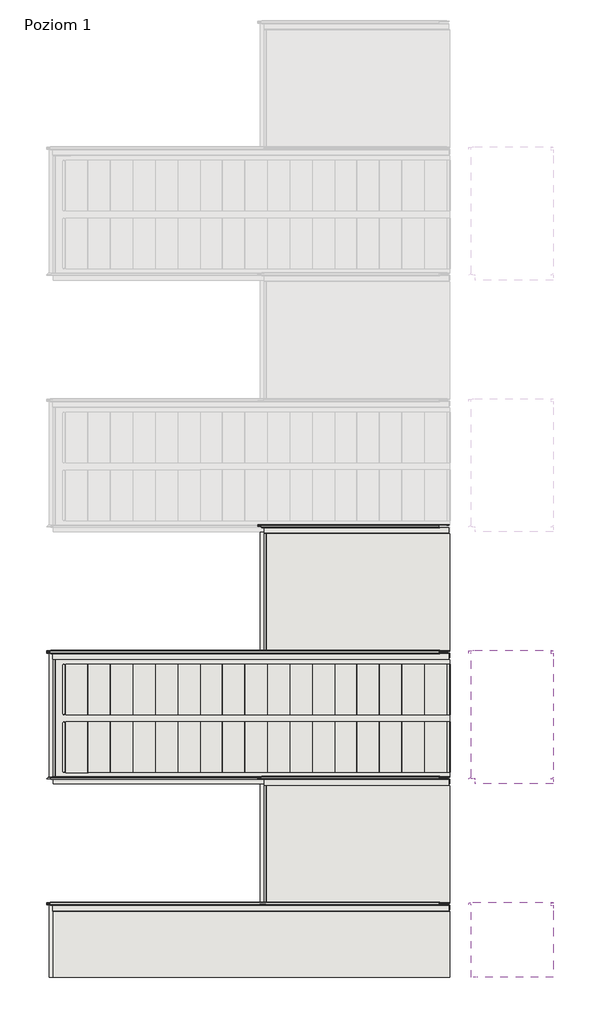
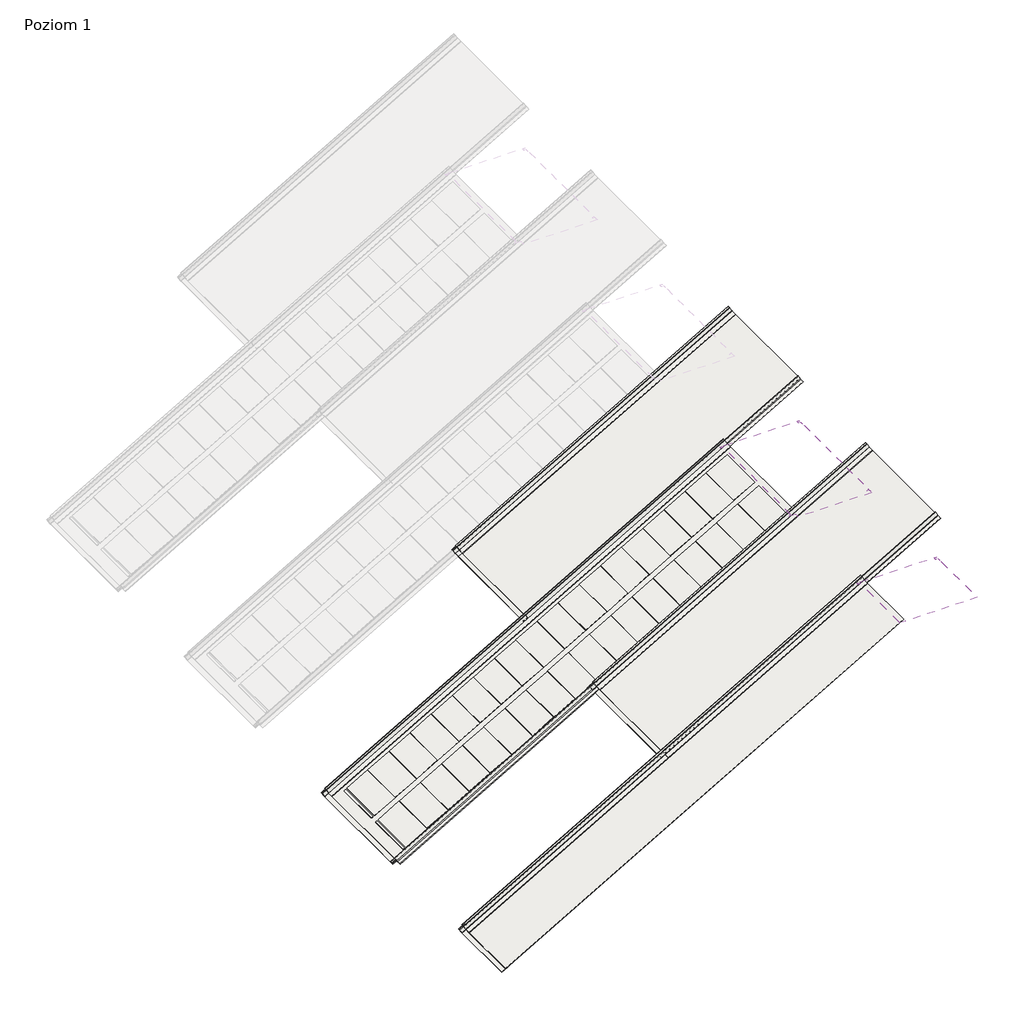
# One storey, part 1 of 5: 6 coverings.
"""IFC4 building model written with IfcOpenShell, lengths in millimetres."""

from ifc_helpers import new_model, si_unit, point, frame, frame_2d, origin, place, context, project, spatial, polyline, circle_curve, trimmed, segment, composite_curve, outline, extrude, transform, mapped, element, save
from components import covering_053faf2b

model = new_model("IFC4")

# Units and contexts
model_context = context("Model", 3, world=origin())
ifc_project = project(units=[si_unit("LENGTHUNIT", "METRE", prefix="MILLI")], contexts=[model_context])

# Site, building, storey
site = spatial("IfcSite", under=ifc_project)
building = spatial("IfcBuilding", under=site)
storey = spatial("IfcBuildingStorey", under=building, Name="Poziom 1", Elevation=3000.0)

# Coverings
placement = place(None, origin())
element("IfcCovering", 1, ObjectType="Zintegrowany dach fotowoltaiczny FIT L.P (pojedynczy arkusz) : Zintegrowany dach fotowoltaiczny FIT L.P (pojedynczy arkusz)", at=placement, inside=storey, context=model_context, shape_type="SweptSolid", body=[
    extrude(outline(composite_curve([segment(polyline([(-502.4735079, 0.0), (-504.4735079, -2.0), (-527.0645253, -2.0)]), True, "CONTINUOUS"), segment(trimmed(circle_curve(frame_2d((-527.0645253, -2.82435)), 0.82435), [point((-527.0645253, -2.0))], [point((-527.8888753, -2.82435))], True, "CARTESIAN"), True, "CONTINUOUS"), segment(polyline([(-527.8888753, -2.82435), (-527.8888753, -21.4999999)]), True, "CONTINUOUS"), segment(trimmed(circle_curve(frame_2d((-529.8888753, -21.4999999)), 2.0), [point((-527.8888753, -21.4999999))], [point((-529.8888753, -23.5))], False, "CARTESIAN"), True, "CONTINUOUS"), segment(polyline([(-529.8888753, -23.5), (-538.7124649, -23.5)]), True, "CONTINUOUS"), segment(trimmed(circle_curve(frame_2d((-538.7124649, -21.4999999)), 2.0), [point((-538.7124649, -23.5))], [point((-540.7124649, -21.4999999))], False, "CARTESIAN"), True, "CONTINUOUS"), segment(polyline([(-540.7124649, -21.4999999), (-540.7124649, -7.4245569)]), True, "CONTINUOUS"), segment(trimmed(circle_curve(frame_2d((-536.9124649, -7.4245569)), 3.8), [point((-540.7124649, -7.4245569))], [point((-538.602078, -4.0208519))], False, "CARTESIAN"), True, "CONTINUOUS"), segment(trimmed(circle_curve(frame_2d((-539.1177488, -2.9820395)), 1.1597619), [point((-538.602078, -4.0208519))], [point((-537.9725591, -2.7987691))], True, "CARTESIAN"), True, "CONTINUOUS"), segment(polyline([(-537.9725591, -2.7987691), (-538.8089749, -1.2740237), (-537.9322268, -0.7930739), (-537.1002451, -2.309736)]), True, "CONTINUOUS"), segment(trimmed(circle_curve(frame_2d((-538.6177488, -2.9820395)), 1.6597619), [point((-537.1002451, -2.309736))], [point((-537.8797605, -4.4687079))], False, "CARTESIAN"), True, "CONTINUOUS"), segment(trimmed(circle_curve(frame_2d((-536.4124649, -7.4245569)), 3.3), [point((-537.8797605, -4.4687079))], [point((-539.7124649, -7.4245569))], True, "CARTESIAN"), True, "CONTINUOUS"), segment(polyline([(-539.7124649, -7.4245569), (-539.7124649, -20.9999999)]), True, "CONTINUOUS"), segment(trimmed(circle_curve(frame_2d((-538.2124649, -20.9999999)), 1.5), [point((-539.7124649, -20.9999999))], [point((-538.2124649, -22.4999999))], True, "CARTESIAN"), True, "CONTINUOUS"), segment(polyline([(-538.2124649, -22.4999999), (-530.3888753, -22.4999999)]), True, "CONTINUOUS"), segment(trimmed(circle_curve(frame_2d((-530.3888753, -20.9999999)), 1.5), [point((-530.3888753, -22.4999999))], [point((-528.8888753, -20.9999999))], True, "CARTESIAN"), True, "CONTINUOUS"), segment(polyline([(-528.8888753, -20.9999999), (-528.8888753, -2.7363796)]), True, "CONTINUOUS"), segment(trimmed(circle_curve(frame_2d((-527.09, -2.8)), 1.8), [point((-528.8888753, -2.7363796))], [point((-527.09, -1.0))], False, "CARTESIAN"), True, "CONTINUOUS"), segment(polyline([(-527.09, -1.0), (-504.8877215, -1.0), (-502.8877215, 1.0), (-226.5006701, 1.0), (-226.5006701, 0.0), (-502.4735079, 0.0)]), True, "CONTINUOUS")], self_intersect=False)), frame((-1169.0411448, -8928.5102619, 3241.5544457), z_axis=(0.8660254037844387, 0.0, 0.5), x_axis=(0.0, -1.0, 0.0)), (0.0, 0.0, 1.0), 2040.0),
    extrude(outline(composite_curve([segment(trimmed(circle_curve(frame_2d((49.17565, -11.6479396)), 0.82435), [point((49.9999999, -11.6479396))], [point((49.17565, -10.8235896))], True, "CARTESIAN"), True, "CONTINUOUS"), segment(polyline([(49.17565, -10.8235896), (30.0, -10.8235896)]), True, "CONTINUOUS"), segment(trimmed(circle_curve(frame_2d((30.0, -8.8235896)), 2.0), [point((30.0, -10.8235896))], [point((28.0, -8.8235896))], False, "CARTESIAN"), True, "CONTINUOUS"), segment(polyline([(28.0, -8.8235896), (28.0, -4.0)]), True, "CONTINUOUS"), segment(trimmed(circle_curve(frame_2d((30.0, -4.0)), 2.0), [point((28.0, -4.0))], [point((30.0, -2.0))], False, "CARTESIAN"), True, "CONTINUOUS"), segment(polyline([(30.0, -2.0), (42.075443, -2.0)]), True, "CONTINUOUS"), segment(trimmed(circle_curve(frame_2d((42.075443, -5.8)), 3.8), [point((42.075443, -2.0))], [point((45.479148, -4.1103869))], False, "CARTESIAN"), True, "CONTINUOUS"), segment(trimmed(circle_curve(frame_2d((46.5179605, -3.5947161)), 1.1597619), [point((45.479148, -4.1103869))], [point((46.7012309, -4.7399058))], True, "CARTESIAN"), True, "CONTINUOUS"), segment(polyline([(46.7012309, -4.7399058), (48.2259762, -3.90349), (48.7069261, -4.7802381), (47.190264, -5.6122198)]), True, "CONTINUOUS"), segment(trimmed(circle_curve(frame_2d((46.5179605, -4.0947161)), 1.6597619), [point((47.190264, -5.6122198))], [point((45.0312921, -4.8327044))], False, "CARTESIAN"), True, "CONTINUOUS"), segment(trimmed(circle_curve(frame_2d((42.075443, -6.3)), 3.3), [point((45.0312921, -4.8327044))], [point((42.075443, -3.0))], True, "CARTESIAN"), True, "CONTINUOUS"), segment(polyline([(42.075443, -3.0), (30.5, -3.0)]), True, "CONTINUOUS"), segment(trimmed(circle_curve(frame_2d((30.5, -4.5)), 1.5), [point((30.5, -3.0))], [point((29.0, -4.5))], True, "CARTESIAN"), True, "CONTINUOUS"), segment(polyline([(29.0, -4.5), (29.0, -8.3235896)]), True, "CONTINUOUS"), segment(trimmed(circle_curve(frame_2d((30.5, -8.3235896)), 1.5), [point((29.0, -8.3235896))], [point((30.5, -9.8235896))], True, "CARTESIAN"), True, "CONTINUOUS"), segment(polyline([(30.5, -9.8235896), (49.2636204, -9.8235896)]), True, "CONTINUOUS"), segment(trimmed(circle_curve(frame_2d((49.1999999, -11.6224649)), 1.8), [point((49.2636204, -9.8235896))], [point((50.9999999, -11.6224649))], False, "CARTESIAN"), True, "CONTINUOUS"), segment(polyline([(50.9999999, -11.6224649), (50.9999999, -314.2117948), (49.9999999, -314.2117948), (49.9999999, -11.6479396)]), True, "CONTINUOUS")], self_intersect=False)), frame((-1210.8616529, -8387.797797, 3273.9896904), z_axis=(0.8660254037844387, 0.0, 0.5), x_axis=(0.5, 0.0, -0.8660254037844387)), (0.0, 0.0, 1.0), 30.0),
])
element("IfcCovering", 2, ObjectType="Zintegrowany dach fotowoltaiczny FIT L.P (pojedynczy arkusz) : Zintegrowany dach fotowoltaiczny FIT L.P (pojedynczy arkusz)", at=placement, inside=storey, context=model_context, shape_type="SweptSolid", body=[
    extrude(outline(composite_curve([segment(polyline([(-502.4735079, 0.0), (-504.4735079, -2.0), (-527.0645253, -2.0)]), True, "CONTINUOUS"), segment(trimmed(circle_curve(frame_2d((-527.0645253, -2.82435)), 0.82435), [point((-527.0645253, -2.0))], [point((-527.8888753, -2.82435))], True, "CARTESIAN"), True, "CONTINUOUS"), segment(polyline([(-527.8888753, -2.82435), (-527.8888753, -21.4999999)]), True, "CONTINUOUS"), segment(trimmed(circle_curve(frame_2d((-529.8888753, -21.4999999)), 2.0), [point((-527.8888753, -21.4999999))], [point((-529.8888753, -23.5))], False, "CARTESIAN"), True, "CONTINUOUS"), segment(polyline([(-529.8888753, -23.5), (-538.7124649, -23.5)]), True, "CONTINUOUS"), segment(trimmed(circle_curve(frame_2d((-538.7124649, -21.4999999)), 2.0), [point((-538.7124649, -23.5))], [point((-540.7124649, -21.4999999))], False, "CARTESIAN"), True, "CONTINUOUS"), segment(polyline([(-540.7124649, -21.4999999), (-540.7124649, -7.4245569)]), True, "CONTINUOUS"), segment(trimmed(circle_curve(frame_2d((-536.9124649, -7.4245569)), 3.8), [point((-540.7124649, -7.4245569))], [point((-538.602078, -4.0208519))], False, "CARTESIAN"), True, "CONTINUOUS"), segment(trimmed(circle_curve(frame_2d((-539.1177488, -2.9820395)), 1.1597619), [point((-538.602078, -4.0208519))], [point((-537.9725591, -2.798769))], True, "CARTESIAN"), True, "CONTINUOUS"), segment(polyline([(-537.9725591, -2.798769), (-538.8089749, -1.2740237), (-537.9322268, -0.7930739), (-537.1002451, -2.309736)]), True, "CONTINUOUS"), segment(trimmed(circle_curve(frame_2d((-538.6177488, -2.9820395)), 1.6597619), [point((-537.1002451, -2.309736))], [point((-537.8797605, -4.4687078))], False, "CARTESIAN"), True, "CONTINUOUS"), segment(trimmed(circle_curve(frame_2d((-536.4124649, -7.4245569)), 3.3), [point((-537.8797605, -4.4687078))], [point((-539.7124649, -7.4245569))], True, "CARTESIAN"), True, "CONTINUOUS"), segment(polyline([(-539.7124649, -7.4245569), (-539.7124649, -20.9999999)]), True, "CONTINUOUS"), segment(trimmed(circle_curve(frame_2d((-538.2124649, -20.9999999)), 1.5), [point((-539.7124649, -20.9999999))], [point((-538.2124649, -22.4999999))], True, "CARTESIAN"), True, "CONTINUOUS"), segment(polyline([(-538.2124649, -22.4999999), (-530.3888753, -22.4999999)]), True, "CONTINUOUS"), segment(trimmed(circle_curve(frame_2d((-530.3888753, -20.9999999)), 1.5), [point((-530.3888753, -22.4999999))], [point((-528.8888753, -20.9999999))], True, "CARTESIAN"), True, "CONTINUOUS"), segment(polyline([(-528.8888753, -20.9999999), (-528.8888753, -2.7363796)]), True, "CONTINUOUS"), segment(trimmed(circle_curve(frame_2d((-527.09, -2.8)), 1.8), [point((-528.8888753, -2.7363796))], [point((-527.09, -1.0))], False, "CARTESIAN"), True, "CONTINUOUS"), segment(polyline([(-527.09, -1.0), (-504.8877215, -1.0), (-502.8877215, 1.0), (-226.5006701, 1.0), (-226.5006701, 0.0), (-502.4735079, 0.0)]), True, "CONTINUOUS")], self_intersect=False)), frame((597.6506789, -8928.5102619, 4261.5544457), z_axis=(0.8660254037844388, 0.0, 0.4999999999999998), x_axis=(0.0, -1.0, 0.0)), (0.0, 0.0, 1.0), 376.4773133),
    extrude(outline(composite_curve([segment(trimmed(circle_curve(frame_2d((49.17565, -11.6479396)), 0.82435), [point((49.9999999, -11.6479396))], [point((49.17565, -10.8235896))], True, "CARTESIAN"), True, "CONTINUOUS"), segment(polyline([(49.17565, -10.8235896), (30.0, -10.8235896)]), True, "CONTINUOUS"), segment(trimmed(circle_curve(frame_2d((30.0, -8.8235896)), 2.0), [point((30.0, -10.8235896))], [point((28.0, -8.8235896))], False, "CARTESIAN"), True, "CONTINUOUS"), segment(polyline([(28.0, -8.8235896), (28.0, -4.0)]), True, "CONTINUOUS"), segment(trimmed(circle_curve(frame_2d((30.0, -4.0)), 2.0), [point((28.0, -4.0))], [point((30.0, -2.0))], False, "CARTESIAN"), True, "CONTINUOUS"), segment(polyline([(30.0, -2.0), (42.075443, -2.0)]), True, "CONTINUOUS"), segment(trimmed(circle_curve(frame_2d((42.075443, -5.8)), 3.8), [point((42.075443, -2.0))], [point((45.479148, -4.1103869))], False, "CARTESIAN"), True, "CONTINUOUS"), segment(trimmed(circle_curve(frame_2d((46.5179605, -3.5947161)), 1.1597619), [point((45.479148, -4.1103869))], [point((46.7012309, -4.7399058))], True, "CARTESIAN"), True, "CONTINUOUS"), segment(polyline([(46.7012309, -4.7399058), (48.2259762, -3.90349), (48.7069261, -4.7802381), (47.190264, -5.6122198)]), True, "CONTINUOUS"), segment(trimmed(circle_curve(frame_2d((46.5179605, -4.0947161)), 1.6597619), [point((47.190264, -5.6122198))], [point((45.0312921, -4.8327044))], False, "CARTESIAN"), True, "CONTINUOUS"), segment(trimmed(circle_curve(frame_2d((42.075443, -6.3)), 3.3), [point((45.0312921, -4.8327044))], [point((42.075443, -3.0))], True, "CARTESIAN"), True, "CONTINUOUS"), segment(polyline([(42.075443, -3.0), (30.5, -3.0)]), True, "CONTINUOUS"), segment(trimmed(circle_curve(frame_2d((30.5, -4.5)), 1.5), [point((30.5, -3.0))], [point((29.0, -4.5))], True, "CARTESIAN"), True, "CONTINUOUS"), segment(polyline([(29.0, -4.5), (29.0, -8.3235896)]), True, "CONTINUOUS"), segment(trimmed(circle_curve(frame_2d((30.5, -8.3235896)), 1.5), [point((29.0, -8.3235896))], [point((30.5, -9.8235896))], True, "CARTESIAN"), True, "CONTINUOUS"), segment(polyline([(30.5, -9.8235896), (49.2636204, -9.8235896)]), True, "CONTINUOUS"), segment(trimmed(circle_curve(frame_2d((49.1999999, -11.6224649)), 1.8), [point((49.2636204, -9.8235896))], [point((50.9999999, -11.6224649))], False, "CARTESIAN"), True, "CONTINUOUS"), segment(polyline([(50.9999999, -11.6224649), (50.9999999, -314.2117948), (49.9999999, -314.2117948), (49.9999999, -11.6479396)]), True, "CONTINUOUS")], self_intersect=False)), frame((555.8301708, -8387.797797, 4293.9896904), z_axis=(0.8660254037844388, 0.0, 0.4999999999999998), x_axis=(0.4999999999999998, 0.0, -0.8660254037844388)), (0.0, 0.0, 1.0), 30.0),
])
element("IfcCovering", 3, ObjectType="Zintegrowany dach fotowoltaiczny FIT L.P (pojedynczy arkusz) : Zintegrowany dach fotowoltaiczny FIT L.P (pojedynczy arkusz)", at=placement, inside=storey, context=model_context, shape_type="SweptSolid", body=[
    extrude(outline(composite_curve([segment(polyline([(17.2875351, 0.0), (0.0, 0.0)]), True, "CONTINUOUS"), segment(trimmed(circle_curve(frame_2d((0.0, -2.8)), 2.8), [point((0.0, 0.0))], [point((-2.8, -2.8))], True, "CARTESIAN"), True, "CONTINUOUS"), segment(polyline([(-2.8, -2.8), (-2.8, -20.5940327)]), True, "CONTINUOUS"), segment(trimmed(circle_curve(frame_2d((-4.4133269, -20.3837808)), 1.6269694), [point((-2.8, -20.5940327))], [point((-5.8290282, -21.185541))], False, "CARTESIAN"), True, "CONTINUOUS"), segment(polyline([(-5.8290282, -21.185541), (-11.2859094, -8.622424)]), True, "CONTINUOUS"), segment(trimmed(circle_curve(frame_2d((-9.3224649, -7.4245569)), 2.3), [point((-11.2859094, -8.622424))], [point((-10.3763841, -5.3802344))], False, "CARTESIAN"), True, "CONTINUOUS"), segment(polyline([(-10.3763841, -5.3802344), (-8.7036849, -4.7047108)]), True, "CONTINUOUS"), segment(trimmed(circle_curve(frame_2d((-9.0408607, -3.8698124)), 0.9004126), [point((-8.7036849, -4.7047108))], [point((-8.2514257, -3.4367591))], True, "CARTESIAN"), True, "CONTINUOUS"), segment(polyline([(-8.2514257, -3.4367591), (-10.1366978, 0.0), (-502.4735079, 0.0), (-504.4735079, -2.0), (-527.0645253, -2.0)]), True, "CONTINUOUS"), segment(trimmed(circle_curve(frame_2d((-527.0645253, -2.82435)), 0.82435), [point((-527.0645253, -2.0))], [point((-527.8888753, -2.82435))], True, "CARTESIAN"), True, "CONTINUOUS"), segment(polyline([(-527.8888753, -2.82435), (-527.8888753, -21.4999999)]), True, "CONTINUOUS"), segment(trimmed(circle_curve(frame_2d((-529.8888753, -21.4999999)), 2.0), [point((-527.8888753, -21.4999999))], [point((-529.8888753, -23.5))], False, "CARTESIAN"), True, "CONTINUOUS"), segment(polyline([(-529.8888753, -23.5), (-538.7124649, -23.5)]), True, "CONTINUOUS"), segment(trimmed(circle_curve(frame_2d((-538.7124649, -21.4999999)), 2.0), [point((-538.7124649, -23.5))], [point((-540.7124649, -21.4999999))], False, "CARTESIAN"), True, "CONTINUOUS"), segment(polyline([(-540.7124649, -21.4999999), (-540.7124649, -7.4245569)]), True, "CONTINUOUS"), segment(trimmed(circle_curve(frame_2d((-536.9124649, -7.4245569)), 3.8), [point((-540.7124649, -7.4245569))], [point((-538.602078, -4.0208519))], False, "CARTESIAN"), True, "CONTINUOUS"), segment(trimmed(circle_curve(frame_2d((-539.1177488, -2.9820394)), 1.1597619), [point((-538.602078, -4.0208519))], [point((-537.9725591, -2.798769))], True, "CARTESIAN"), True, "CONTINUOUS"), segment(polyline([(-537.9725591, -2.798769), (-538.8089749, -1.2740237), (-537.9322268, -0.7930738), (-537.1002451, -2.3097359)]), True, "CONTINUOUS"), segment(trimmed(circle_curve(frame_2d((-538.6177488, -2.9820394)), 1.6597619), [point((-537.1002451, -2.3097359))], [point((-537.8797605, -4.4687078))], False, "CARTESIAN"), True, "CONTINUOUS"), segment(trimmed(circle_curve(frame_2d((-536.4124649, -7.4245569)), 3.3), [point((-537.8797605, -4.4687078))], [point((-539.7124649, -7.4245569))], True, "CARTESIAN"), True, "CONTINUOUS"), segment(polyline([(-539.7124649, -7.4245569), (-539.7124649, -20.9999999)]), True, "CONTINUOUS"), segment(trimmed(circle_curve(frame_2d((-538.2124649, -20.9999999)), 1.5), [point((-539.7124649, -20.9999999))], [point((-538.2124649, -22.4999999))], True, "CARTESIAN"), True, "CONTINUOUS"), segment(polyline([(-538.2124649, -22.4999999), (-530.3888753, -22.4999999)]), True, "CONTINUOUS"), segment(trimmed(circle_curve(frame_2d((-530.3888753, -20.9999999)), 1.5), [point((-530.3888753, -22.4999999))], [point((-528.8888753, -20.9999999))], True, "CARTESIAN"), True, "CONTINUOUS"), segment(polyline([(-528.8888753, -20.9999999), (-528.8888753, -2.7363796)]), True, "CONTINUOUS"), segment(trimmed(circle_curve(frame_2d((-527.09, -2.8)), 1.8), [point((-528.8888753, -2.7363796))], [point((-527.09, -1.0))], False, "CARTESIAN"), True, "CONTINUOUS"), segment(polyline([(-527.09, -1.0), (-504.8877215, -1.0), (-502.8877215, 1.0), (-10.497252, 1.0)]), True, "CONTINUOUS"), segment(trimmed(circle_curve(frame_2d((-10.7205789, -0.9874921)), 2.0), [point((-10.497252, 1.0))], [point((-9.0887306, 0.1688258))], False, "CARTESIAN"), True, "CONTINUOUS"), segment(polyline([(-9.0887306, 0.1688258), (-7.1040334, -3.4491804)]), True, "CONTINUOUS"), segment(trimmed(circle_curve(frame_2d((-8.3318425, -4.1227085)), 1.4004126), [point((-7.1040334, -3.4491804))], [point((-7.8074327, -5.4212269))], False, "CARTESIAN"), True, "CONTINUOUS"), segment(polyline([(-7.8074327, -5.4212269), (-9.9530757, -6.2877499)]), True, "CONTINUOUS"), segment(trimmed(circle_curve(frame_2d((-9.3224649, -7.4245569)), 1.3), [point((-9.9530757, -6.2877499))], [point((-10.4001629, -8.151583))], True, "CARTESIAN"), True, "CONTINUOUS"), segment(polyline([(-10.4001629, -8.151583), (-4.9378013, -20.7273172)]), True, "CONTINUOUS"), segment(trimmed(circle_curve(frame_2d((-4.4133269, -20.3837808)), 0.6269694), [point((-4.9378013, -20.7273172))], [point((-3.8, -20.5138607))], True, "CARTESIAN"), True, "CONTINUOUS"), segment(polyline([(-3.8, -20.5138607), (-3.8, -2.8)]), True, "CONTINUOUS"), segment(trimmed(circle_curve(frame_2d((0.0, -2.8)), 3.8), [point((-3.8, -2.8))], [point((0.0, 1.0))], False, "CARTESIAN"), True, "CONTINUOUS"), segment(polyline([(0.0, 1.0), (17.2875351, 1.0), (17.2875351, 0.0)]), True, "CONTINUOUS")], self_intersect=False)), frame((-285.695233, -8401.5102619, 3751.5544457), z_axis=(0.8660254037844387, 0.0, 0.49999999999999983), x_axis=(0.0, -1.0, 0.0)), (0.0, 0.0, 1.0), 1396.4773133),
    extrude(outline(composite_curve([segment(polyline([(28.1680322, -535.9799253), (40.9033234, -530.4482589)]), True, "CONTINUOUS"), segment(trimmed(circle_curve(frame_2d((41.6303496, -531.525957)), 1.3), [point((40.9033234, -530.4482589))], [point((42.7671565, -530.8953461))], False, "CARTESIAN"), True, "CONTINUOUS"), segment(polyline([(42.7671565, -530.8953461), (43.9725969, -533.8801997)]), True, "CONTINUOUS"), segment(trimmed(circle_curve(frame_2d((44.6041589, -533.6251419)), 0.6811204), [point((43.9725969, -533.8801997))], [point((44.9317436, -534.2223129))], True, "CARTESIAN"), True, "CONTINUOUS"), segment(polyline([(44.9317436, -534.2223129), (49.9999999, -531.442065), (49.9999999, -11.6479396)]), True, "CONTINUOUS"), segment(trimmed(circle_curve(frame_2d((49.17565, -11.6479396)), 0.82435), [point((49.9999999, -11.6479396))], [point((49.17565, -10.8235896))], True, "CARTESIAN"), True, "CONTINUOUS"), segment(polyline([(49.17565, -10.8235896), (30.0, -10.8235896)]), True, "CONTINUOUS"), segment(trimmed(circle_curve(frame_2d((30.0, -8.8235896)), 2.0), [point((30.0, -10.8235896))], [point((28.0, -8.8235896))], False, "CARTESIAN"), True, "CONTINUOUS"), segment(polyline([(28.0, -8.8235896), (28.0, -4.0)]), True, "CONTINUOUS"), segment(trimmed(circle_curve(frame_2d((30.0, -4.0)), 2.0), [point((28.0, -4.0))], [point((30.0, -2.0))], False, "CARTESIAN"), True, "CONTINUOUS"), segment(polyline([(30.0, -2.0), (42.075443, -2.0)]), True, "CONTINUOUS"), segment(trimmed(circle_curve(frame_2d((42.075443, -5.8)), 3.8), [point((42.075443, -2.0))], [point((45.479148, -4.1103869))], False, "CARTESIAN"), True, "CONTINUOUS"), segment(trimmed(circle_curve(frame_2d((46.5179605, -3.5947161)), 1.1597619), [point((45.479148, -4.1103869))], [point((46.7012308, -4.7399058))], True, "CARTESIAN"), True, "CONTINUOUS"), segment(polyline([(46.7012308, -4.7399058), (48.2259762, -3.90349), (48.706926, -4.7802381), (47.190264, -5.6122198)]), True, "CONTINUOUS"), segment(trimmed(circle_curve(frame_2d((46.5179605, -4.0947161)), 1.6597619), [point((47.190264, -5.6122198))], [point((45.0312921, -4.8327044))], False, "CARTESIAN"), True, "CONTINUOUS"), segment(trimmed(circle_curve(frame_2d((42.075443, -6.3)), 3.3), [point((45.0312921, -4.8327044))], [point((42.075443, -3.0))], True, "CARTESIAN"), True, "CONTINUOUS"), segment(polyline([(42.075443, -3.0), (30.5, -3.0)]), True, "CONTINUOUS"), segment(trimmed(circle_curve(frame_2d((30.5, -4.5)), 1.5), [point((30.5, -3.0))], [point((29.0, -4.5))], True, "CARTESIAN"), True, "CONTINUOUS"), segment(polyline([(29.0, -4.5), (29.0, -8.3235896)]), True, "CONTINUOUS"), segment(trimmed(circle_curve(frame_2d((30.5, -8.3235896)), 1.5), [point((29.0, -8.3235896))], [point((30.5, -9.8235896))], True, "CARTESIAN"), True, "CONTINUOUS"), segment(polyline([(30.5, -9.8235896), (49.2636204, -9.8235896)]), True, "CONTINUOUS"), segment(trimmed(circle_curve(frame_2d((49.1999999, -11.6224649)), 1.8), [point((49.2636204, -9.8235896))], [point((50.9999999, -11.6224649))], False, "CARTESIAN"), True, "CONTINUOUS"), segment(polyline([(50.9999999, -11.6224649), (50.9999999, -530.8500476)]), True, "CONTINUOUS"), segment(trimmed(circle_curve(frame_2d((48.9999999, -530.8500476)), 2.0), [point((50.9999999, -530.8500476))], [point((49.9618996, -532.6035438))], False, "CARTESIAN"), True, "CONTINUOUS"), segment(polyline([(49.9618996, -532.6035438), (45.1357072, -535.2510049)]), True, "CONTINUOUS"), segment(trimmed(circle_curve(frame_2d((44.462179, -534.0231958)), 1.4004126), [point((45.1357072, -535.2510049))], [point((43.1636607, -534.5476056))], False, "CARTESIAN"), True, "CONTINUOUS"), segment(polyline([(43.1636607, -534.5476056), (41.792464, -531.152314), (28.7259872, -536.8278332)]), True, "CONTINUOUS"), segment(trimmed(circle_curve(frame_2d((28.5207601, -536.3553487)), 0.5151308), [point((28.7259872, -536.8278332))], [point((28.1680322, -535.9799253))], False, "CARTESIAN"), True, "CONTINUOUS")], self_intersect=False)), frame((-327.515741, -7860.797797, 3783.9896904), z_axis=(0.8660254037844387, 0.0, 0.49999999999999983), x_axis=(0.49999999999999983, 0.0, -0.8660254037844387)), (0.0, 0.0, 1.0), 30.0),
])
element("IfcCovering", 4, ObjectType="Zintegrowany dach fotowoltaiczny FIT L.P (pojedynczy arkusz) : Zintegrowany dach fotowoltaiczny FIT L.P (pojedynczy arkusz)", at=placement, inside=storey, context=model_context, shape_type="SweptSolid", body=[
    extrude(outline(composite_curve([segment(polyline([(17.2875351, 0.0), (0.0, 0.0)]), True, "CONTINUOUS"), segment(trimmed(circle_curve(frame_2d((0.0, -2.8)), 2.8), [point((0.0, 0.0))], [point((-2.8, -2.8))], True, "CARTESIAN"), True, "CONTINUOUS"), segment(polyline([(-2.8, -2.8), (-2.8, -20.5940327)]), True, "CONTINUOUS"), segment(trimmed(circle_curve(frame_2d((-4.4133269, -20.3837808)), 1.6269694), [point((-2.8, -20.5940327))], [point((-5.8290282, -21.185541))], False, "CARTESIAN"), True, "CONTINUOUS"), segment(polyline([(-5.8290282, -21.185541), (-11.2859094, -8.622424)]), True, "CONTINUOUS"), segment(trimmed(circle_curve(frame_2d((-9.3224649, -7.4245569)), 2.3), [point((-11.2859094, -8.622424))], [point((-10.3763841, -5.3802344))], False, "CARTESIAN"), True, "CONTINUOUS"), segment(polyline([(-10.3763841, -5.3802344), (-8.7036849, -4.7047108)]), True, "CONTINUOUS"), segment(trimmed(circle_curve(frame_2d((-9.0408607, -3.8698124)), 0.9004126), [point((-8.7036849, -4.7047108))], [point((-8.2514257, -3.4367591))], True, "CARTESIAN"), True, "CONTINUOUS"), segment(polyline([(-8.2514257, -3.4367591), (-10.1366978, 0.0), (-502.4735079, 0.0), (-504.4735079, -2.0), (-527.0645253, -2.0)]), True, "CONTINUOUS"), segment(trimmed(circle_curve(frame_2d((-527.0645253, -2.82435)), 0.82435), [point((-527.0645253, -2.0))], [point((-527.8888753, -2.82435))], True, "CARTESIAN"), True, "CONTINUOUS"), segment(polyline([(-527.8888753, -2.82435), (-527.8888753, -21.4999999)]), True, "CONTINUOUS"), segment(trimmed(circle_curve(frame_2d((-529.8888753, -21.4999999)), 2.0), [point((-527.8888753, -21.4999999))], [point((-529.8888753, -23.5))], False, "CARTESIAN"), True, "CONTINUOUS"), segment(polyline([(-529.8888753, -23.5), (-538.7124649, -23.5)]), True, "CONTINUOUS"), segment(trimmed(circle_curve(frame_2d((-538.7124649, -21.4999999)), 2.0), [point((-538.7124649, -23.5))], [point((-540.7124649, -21.4999999))], False, "CARTESIAN"), True, "CONTINUOUS"), segment(polyline([(-540.7124649, -21.4999999), (-540.7124649, -7.4245569)]), True, "CONTINUOUS"), segment(trimmed(circle_curve(frame_2d((-536.9124649, -7.4245569)), 3.8), [point((-540.7124649, -7.4245569))], [point((-538.602078, -4.0208519))], False, "CARTESIAN"), True, "CONTINUOUS"), segment(trimmed(circle_curve(frame_2d((-539.1177488, -2.9820395)), 1.1597619), [point((-538.602078, -4.0208519))], [point((-537.9725591, -2.798769))], True, "CARTESIAN"), True, "CONTINUOUS"), segment(polyline([(-537.9725591, -2.798769), (-538.8089749, -1.2740237), (-537.9322268, -0.7930739), (-537.1002451, -2.309736)]), True, "CONTINUOUS"), segment(trimmed(circle_curve(frame_2d((-538.6177488, -2.9820395)), 1.6597619), [point((-537.1002451, -2.309736))], [point((-537.8797605, -4.4687078))], False, "CARTESIAN"), True, "CONTINUOUS"), segment(trimmed(circle_curve(frame_2d((-536.4124649, -7.4245569)), 3.3), [point((-537.8797605, -4.4687078))], [point((-539.7124649, -7.4245569))], True, "CARTESIAN"), True, "CONTINUOUS"), segment(polyline([(-539.7124649, -7.4245569), (-539.7124649, -20.9999999)]), True, "CONTINUOUS"), segment(trimmed(circle_curve(frame_2d((-538.2124649, -20.9999999)), 1.5), [point((-539.7124649, -20.9999999))], [point((-538.2124649, -22.4999999))], True, "CARTESIAN"), True, "CONTINUOUS"), segment(polyline([(-538.2124649, -22.4999999), (-530.3888753, -22.4999999)]), True, "CONTINUOUS"), segment(trimmed(circle_curve(frame_2d((-530.3888753, -20.9999999)), 1.5), [point((-530.3888753, -22.4999999))], [point((-528.8888753, -20.9999999))], True, "CARTESIAN"), True, "CONTINUOUS"), segment(polyline([(-528.8888753, -20.9999999), (-528.8888753, -2.7363796)]), True, "CONTINUOUS"), segment(trimmed(circle_curve(frame_2d((-527.09, -2.8)), 1.8), [point((-528.8888753, -2.7363796))], [point((-527.09, -1.0))], False, "CARTESIAN"), True, "CONTINUOUS"), segment(polyline([(-527.09, -1.0), (-504.8877215, -1.0), (-502.8877215, 1.0), (-10.497252, 1.0)]), True, "CONTINUOUS"), segment(trimmed(circle_curve(frame_2d((-10.7205789, -0.9874922)), 2.0), [point((-10.497252, 1.0))], [point((-9.0887306, 0.1688258))], False, "CARTESIAN"), True, "CONTINUOUS"), segment(polyline([(-9.0887306, 0.1688258), (-7.1040334, -3.4491804)]), True, "CONTINUOUS"), segment(trimmed(circle_curve(frame_2d((-8.3318425, -4.1227085)), 1.4004126), [point((-7.1040334, -3.4491804))], [point((-7.8074327, -5.4212269))], False, "CARTESIAN"), True, "CONTINUOUS"), segment(polyline([(-7.8074327, -5.4212269), (-9.9530757, -6.28775)]), True, "CONTINUOUS"), segment(trimmed(circle_curve(frame_2d((-9.3224649, -7.4245569)), 1.3), [point((-9.9530757, -6.28775))], [point((-10.4001629, -8.151583))], True, "CARTESIAN"), True, "CONTINUOUS"), segment(polyline([(-10.4001629, -8.151583), (-4.9378013, -20.7273172)]), True, "CONTINUOUS"), segment(trimmed(circle_curve(frame_2d((-4.4133269, -20.3837808)), 0.6269694), [point((-4.9378013, -20.7273172))], [point((-3.8, -20.5138607))], True, "CARTESIAN"), True, "CONTINUOUS"), segment(polyline([(-3.8, -20.5138607), (-3.8, -2.8)]), True, "CONTINUOUS"), segment(trimmed(circle_curve(frame_2d((0.0, -2.8)), 3.8), [point((-3.8, -2.8))], [point((0.0, 1.0))], False, "CARTESIAN"), True, "CONTINUOUS"), segment(polyline([(0.0, 1.0), (17.2875351, 1.0), (17.2875351, 0.0)]), True, "CONTINUOUS")], self_intersect=False)), frame((597.6506789, -7874.5102619, 4261.5544457), z_axis=(0.8660254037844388, 0.0, 0.4999999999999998), x_axis=(0.0, -1.0, 0.0)), (0.0, 0.0, 1.0), 376.4773133),
    extrude(outline(composite_curve([segment(polyline([(28.1680323, -535.9799253), (40.9033235, -530.4482589)]), True, "CONTINUOUS"), segment(trimmed(circle_curve(frame_2d((41.6303496, -531.525957)), 1.3), [point((40.9033235, -530.4482589))], [point((42.7671565, -530.8953461))], False, "CARTESIAN"), True, "CONTINUOUS"), segment(polyline([(42.7671565, -530.8953461), (43.9725969, -533.8801997)]), True, "CONTINUOUS"), segment(trimmed(circle_curve(frame_2d((44.6041589, -533.6251419)), 0.6811204), [point((43.9725969, -533.8801997))], [point((44.9317436, -534.2223129))], True, "CARTESIAN"), True, "CONTINUOUS"), segment(polyline([(44.9317436, -534.2223129), (49.9999999, -531.442065), (49.9999999, -11.6479396)]), True, "CONTINUOUS"), segment(trimmed(circle_curve(frame_2d((49.17565, -11.6479396)), 0.82435), [point((49.9999999, -11.6479396))], [point((49.17565, -10.8235896))], True, "CARTESIAN"), True, "CONTINUOUS"), segment(polyline([(49.17565, -10.8235896), (30.0, -10.8235896)]), True, "CONTINUOUS"), segment(trimmed(circle_curve(frame_2d((30.0, -8.8235896)), 2.0), [point((30.0, -10.8235896))], [point((28.0, -8.8235896))], False, "CARTESIAN"), True, "CONTINUOUS"), segment(polyline([(28.0, -8.8235896), (28.0, -4.0)]), True, "CONTINUOUS"), segment(trimmed(circle_curve(frame_2d((30.0, -4.0)), 2.0), [point((28.0, -4.0))], [point((30.0, -2.0))], False, "CARTESIAN"), True, "CONTINUOUS"), segment(polyline([(30.0, -2.0), (42.075443, -2.0)]), True, "CONTINUOUS"), segment(trimmed(circle_curve(frame_2d((42.075443, -5.8)), 3.8), [point((42.075443, -2.0))], [point((45.479148, -4.1103869))], False, "CARTESIAN"), True, "CONTINUOUS"), segment(trimmed(circle_curve(frame_2d((46.5179605, -3.5947161)), 1.1597619), [point((45.479148, -4.1103869))], [point((46.7012309, -4.7399058))], True, "CARTESIAN"), True, "CONTINUOUS"), segment(polyline([(46.7012309, -4.7399058), (48.2259762, -3.90349), (48.7069261, -4.7802381), (47.190264, -5.6122198)]), True, "CONTINUOUS"), segment(trimmed(circle_curve(frame_2d((46.5179605, -4.0947161)), 1.6597619), [point((47.190264, -5.6122198))], [point((45.0312921, -4.8327044))], False, "CARTESIAN"), True, "CONTINUOUS"), segment(trimmed(circle_curve(frame_2d((42.075443, -6.3)), 3.3), [point((45.0312921, -4.8327044))], [point((42.075443, -3.0))], True, "CARTESIAN"), True, "CONTINUOUS"), segment(polyline([(42.075443, -3.0), (30.5, -3.0)]), True, "CONTINUOUS"), segment(trimmed(circle_curve(frame_2d((30.5, -4.5)), 1.5), [point((30.5, -3.0))], [point((29.0, -4.5))], True, "CARTESIAN"), True, "CONTINUOUS"), segment(polyline([(29.0, -4.5), (29.0, -8.3235896)]), True, "CONTINUOUS"), segment(trimmed(circle_curve(frame_2d((30.5, -8.3235896)), 1.5), [point((29.0, -8.3235896))], [point((30.5, -9.8235896))], True, "CARTESIAN"), True, "CONTINUOUS"), segment(polyline([(30.5, -9.8235896), (49.2636204, -9.8235896)]), True, "CONTINUOUS"), segment(trimmed(circle_curve(frame_2d((49.1999999, -11.6224649)), 1.8), [point((49.2636204, -9.8235896))], [point((50.9999999, -11.6224649))], False, "CARTESIAN"), True, "CONTINUOUS"), segment(polyline([(50.9999999, -11.6224649), (50.9999999, -530.8500476)]), True, "CONTINUOUS"), segment(trimmed(circle_curve(frame_2d((48.9999999, -530.8500476)), 2.0), [point((50.9999999, -530.8500476))], [point((49.9618997, -532.6035438))], False, "CARTESIAN"), True, "CONTINUOUS"), segment(polyline([(49.9618997, -532.6035438), (45.1357072, -535.2510049)]), True, "CONTINUOUS"), segment(trimmed(circle_curve(frame_2d((44.462179, -534.0231958)), 1.4004126), [point((45.1357072, -535.2510049))], [point((43.1636607, -534.5476056))], False, "CARTESIAN"), True, "CONTINUOUS"), segment(polyline([(43.1636607, -534.5476056), (41.792464, -531.152314), (28.7259873, -536.8278332)]), True, "CONTINUOUS"), segment(trimmed(circle_curve(frame_2d((28.5207601, -536.3553487)), 0.5151308), [point((28.7259873, -536.8278332))], [point((28.1680323, -535.9799253))], False, "CARTESIAN"), True, "CONTINUOUS")], self_intersect=False)), frame((555.8301708, -7333.797797, 4293.9896904), z_axis=(0.8660254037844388, 0.0, 0.4999999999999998), x_axis=(0.4999999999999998, 0.0, -0.8660254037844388)), (0.0, 0.0, 1.0), 30.0),
])
element("IfcCovering", 5, ObjectType="Zintegrowany dach fotowoltaiczny FIT L.P (pojedynczy arkusz) : Zintegrowany dach fotowoltaiczny FIT L.P (pojedynczy arkusz)", at=placement, inside=storey, context=model_context, shape_type="SweptSolid", body=[
    extrude(outline(composite_curve([segment(polyline([(17.2875351, 0.0), (0.0, 0.0)]), True, "CONTINUOUS"), segment(trimmed(circle_curve(frame_2d((0.0, -2.8)), 2.8), [point((0.0, 0.0))], [point((-2.8, -2.8))], True, "CARTESIAN"), True, "CONTINUOUS"), segment(polyline([(-2.8, -2.8), (-2.8, -20.5940327)]), True, "CONTINUOUS"), segment(trimmed(circle_curve(frame_2d((-4.4133269, -20.3837808)), 1.6269694), [point((-2.8, -20.5940327))], [point((-5.8290282, -21.185541))], False, "CARTESIAN"), True, "CONTINUOUS"), segment(polyline([(-5.8290282, -21.185541), (-11.2859094, -8.622424)]), True, "CONTINUOUS"), segment(trimmed(circle_curve(frame_2d((-9.3224649, -7.4245569)), 2.3), [point((-11.2859094, -8.622424))], [point((-10.3763841, -5.3802344))], False, "CARTESIAN"), True, "CONTINUOUS"), segment(polyline([(-10.3763841, -5.3802344), (-8.7036849, -4.7047108)]), True, "CONTINUOUS"), segment(trimmed(circle_curve(frame_2d((-9.0408607, -3.8698124)), 0.9004126), [point((-8.7036849, -4.7047108))], [point((-8.2514257, -3.4367591))], True, "CARTESIAN"), True, "CONTINUOUS"), segment(polyline([(-8.2514257, -3.4367591), (-10.1366978, 0.0), (-502.4735079, 0.0), (-504.4735079, -2.0), (-527.0645253, -2.0)]), True, "CONTINUOUS"), segment(trimmed(circle_curve(frame_2d((-527.0645253, -2.82435)), 0.82435), [point((-527.0645253, -2.0))], [point((-527.8888753, -2.82435))], True, "CARTESIAN"), True, "CONTINUOUS"), segment(polyline([(-527.8888753, -2.82435), (-527.8888753, -21.4999999)]), True, "CONTINUOUS"), segment(trimmed(circle_curve(frame_2d((-529.8888753, -21.4999999)), 2.0), [point((-527.8888753, -21.4999999))], [point((-529.8888753, -23.5))], False, "CARTESIAN"), True, "CONTINUOUS"), segment(polyline([(-529.8888753, -23.5), (-538.7124649, -23.5)]), True, "CONTINUOUS"), segment(trimmed(circle_curve(frame_2d((-538.7124649, -21.4999999)), 2.0), [point((-538.7124649, -23.5))], [point((-540.7124649, -21.4999999))], False, "CARTESIAN"), True, "CONTINUOUS"), segment(polyline([(-540.7124649, -21.4999999), (-540.7124649, -7.4245569)]), True, "CONTINUOUS"), segment(trimmed(circle_curve(frame_2d((-536.9124649, -7.4245569)), 3.8), [point((-540.7124649, -7.4245569))], [point((-538.602078, -4.0208519))], False, "CARTESIAN"), True, "CONTINUOUS"), segment(trimmed(circle_curve(frame_2d((-539.1177488, -2.9820394)), 1.1597619), [point((-538.602078, -4.0208519))], [point((-537.9725591, -2.798769))], True, "CARTESIAN"), True, "CONTINUOUS"), segment(polyline([(-537.9725591, -2.798769), (-538.8089749, -1.2740237), (-537.9322268, -0.7930738), (-537.1002451, -2.3097359)]), True, "CONTINUOUS"), segment(trimmed(circle_curve(frame_2d((-538.6177488, -2.9820394)), 1.6597619), [point((-537.1002451, -2.3097359))], [point((-537.8797605, -4.4687078))], False, "CARTESIAN"), True, "CONTINUOUS"), segment(trimmed(circle_curve(frame_2d((-536.4124649, -7.4245569)), 3.3), [point((-537.8797605, -4.4687078))], [point((-539.7124649, -7.4245569))], True, "CARTESIAN"), True, "CONTINUOUS"), segment(polyline([(-539.7124649, -7.4245569), (-539.7124649, -20.9999999)]), True, "CONTINUOUS"), segment(trimmed(circle_curve(frame_2d((-538.2124649, -20.9999999)), 1.5), [point((-539.7124649, -20.9999999))], [point((-538.2124649, -22.4999999))], True, "CARTESIAN"), True, "CONTINUOUS"), segment(polyline([(-538.2124649, -22.4999999), (-530.3888753, -22.4999999)]), True, "CONTINUOUS"), segment(trimmed(circle_curve(frame_2d((-530.3888753, -20.9999999)), 1.5), [point((-530.3888753, -22.4999999))], [point((-528.8888753, -20.9999999))], True, "CARTESIAN"), True, "CONTINUOUS"), segment(polyline([(-528.8888753, -20.9999999), (-528.8888753, -2.7363796)]), True, "CONTINUOUS"), segment(trimmed(circle_curve(frame_2d((-527.09, -2.8)), 1.8), [point((-528.8888753, -2.7363796))], [point((-527.09, -1.0))], False, "CARTESIAN"), True, "CONTINUOUS"), segment(polyline([(-527.09, -1.0), (-504.8877215, -1.0), (-502.8877215, 1.0), (-10.497252, 1.0)]), True, "CONTINUOUS"), segment(trimmed(circle_curve(frame_2d((-10.7205789, -0.9874921)), 2.0), [point((-10.497252, 1.0))], [point((-9.0887306, 0.1688258))], False, "CARTESIAN"), True, "CONTINUOUS"), segment(polyline([(-9.0887306, 0.1688258), (-7.1040334, -3.4491804)]), True, "CONTINUOUS"), segment(trimmed(circle_curve(frame_2d((-8.3318425, -4.1227085)), 1.4004126), [point((-7.1040334, -3.4491804))], [point((-7.8074327, -5.4212269))], False, "CARTESIAN"), True, "CONTINUOUS"), segment(polyline([(-7.8074327, -5.4212269), (-9.9530757, -6.2877499)]), True, "CONTINUOUS"), segment(trimmed(circle_curve(frame_2d((-9.3224649, -7.4245569)), 1.3), [point((-9.9530757, -6.2877499))], [point((-10.4001629, -8.151583))], True, "CARTESIAN"), True, "CONTINUOUS"), segment(polyline([(-10.4001629, -8.151583), (-4.9378013, -20.7273172)]), True, "CONTINUOUS"), segment(trimmed(circle_curve(frame_2d((-4.4133269, -20.3837808)), 0.6269694), [point((-4.9378013, -20.7273172))], [point((-3.8, -20.5138607))], True, "CARTESIAN"), True, "CONTINUOUS"), segment(polyline([(-3.8, -20.5138607), (-3.8, -2.8)]), True, "CONTINUOUS"), segment(trimmed(circle_curve(frame_2d((0.0, -2.8)), 3.8), [point((-3.8, -2.8))], [point((0.0, 1.0))], False, "CARTESIAN"), True, "CONTINUOUS"), segment(polyline([(0.0, 1.0), (17.2875351, 1.0), (17.2875351, 0.0)]), True, "CONTINUOUS")], self_intersect=False)), frame((-285.695233, -7347.5102619, 3751.5544457), z_axis=(0.8660254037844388, 0.0, 0.49999999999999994), x_axis=(0.0, -1.0, 0.0)), (0.0, 0.0, 1.0), 1396.4773133),
    extrude(outline(composite_curve([segment(polyline([(28.1680322, -535.9799253), (40.9033234, -530.4482589)]), True, "CONTINUOUS"), segment(trimmed(circle_curve(frame_2d((41.6303496, -531.525957)), 1.3), [point((40.9033234, -530.4482589))], [point((42.7671565, -530.8953461))], False, "CARTESIAN"), True, "CONTINUOUS"), segment(polyline([(42.7671565, -530.8953461), (43.9725969, -533.8801997)]), True, "CONTINUOUS"), segment(trimmed(circle_curve(frame_2d((44.6041589, -533.6251419)), 0.6811204), [point((43.9725969, -533.8801997))], [point((44.9317436, -534.2223129))], True, "CARTESIAN"), True, "CONTINUOUS"), segment(polyline([(44.9317436, -534.2223129), (49.9999999, -531.442065), (49.9999999, -11.6479396)]), True, "CONTINUOUS"), segment(trimmed(circle_curve(frame_2d((49.17565, -11.6479396)), 0.82435), [point((49.9999999, -11.6479396))], [point((49.17565, -10.8235896))], True, "CARTESIAN"), True, "CONTINUOUS"), segment(polyline([(49.17565, -10.8235896), (30.0, -10.8235896)]), True, "CONTINUOUS"), segment(trimmed(circle_curve(frame_2d((30.0, -8.8235896)), 2.0), [point((30.0, -10.8235896))], [point((28.0, -8.8235896))], False, "CARTESIAN"), True, "CONTINUOUS"), segment(polyline([(28.0, -8.8235896), (28.0, -4.0)]), True, "CONTINUOUS"), segment(trimmed(circle_curve(frame_2d((30.0, -4.0)), 2.0), [point((28.0, -4.0))], [point((30.0, -2.0))], False, "CARTESIAN"), True, "CONTINUOUS"), segment(polyline([(30.0, -2.0), (42.075443, -2.0)]), True, "CONTINUOUS"), segment(trimmed(circle_curve(frame_2d((42.075443, -5.8)), 3.8), [point((42.075443, -2.0))], [point((45.479148, -4.1103869))], False, "CARTESIAN"), True, "CONTINUOUS"), segment(trimmed(circle_curve(frame_2d((46.5179605, -3.5947161)), 1.1597619), [point((45.479148, -4.1103869))], [point((46.7012308, -4.7399058))], True, "CARTESIAN"), True, "CONTINUOUS"), segment(polyline([(46.7012308, -4.7399058), (48.2259762, -3.90349), (48.706926, -4.7802381), (47.190264, -5.6122198)]), True, "CONTINUOUS"), segment(trimmed(circle_curve(frame_2d((46.5179605, -4.0947161)), 1.6597619), [point((47.190264, -5.6122198))], [point((45.0312921, -4.8327044))], False, "CARTESIAN"), True, "CONTINUOUS"), segment(trimmed(circle_curve(frame_2d((42.075443, -6.3)), 3.3), [point((45.0312921, -4.8327044))], [point((42.075443, -3.0))], True, "CARTESIAN"), True, "CONTINUOUS"), segment(polyline([(42.075443, -3.0), (30.5, -3.0)]), True, "CONTINUOUS"), segment(trimmed(circle_curve(frame_2d((30.5, -4.5)), 1.5), [point((30.5, -3.0))], [point((29.0, -4.5))], True, "CARTESIAN"), True, "CONTINUOUS"), segment(polyline([(29.0, -4.5), (29.0, -8.3235896)]), True, "CONTINUOUS"), segment(trimmed(circle_curve(frame_2d((30.5, -8.3235896)), 1.5), [point((29.0, -8.3235896))], [point((30.5, -9.8235896))], True, "CARTESIAN"), True, "CONTINUOUS"), segment(polyline([(30.5, -9.8235896), (49.2636204, -9.8235896)]), True, "CONTINUOUS"), segment(trimmed(circle_curve(frame_2d((49.1999999, -11.6224649)), 1.8), [point((49.2636204, -9.8235896))], [point((50.9999999, -11.6224649))], False, "CARTESIAN"), True, "CONTINUOUS"), segment(polyline([(50.9999999, -11.6224649), (50.9999999, -530.8500476)]), True, "CONTINUOUS"), segment(trimmed(circle_curve(frame_2d((48.9999999, -530.8500476)), 2.0), [point((50.9999999, -530.8500476))], [point((49.9618996, -532.6035438))], False, "CARTESIAN"), True, "CONTINUOUS"), segment(polyline([(49.9618996, -532.6035438), (45.1357072, -535.2510049)]), True, "CONTINUOUS"), segment(trimmed(circle_curve(frame_2d((44.462179, -534.0231958)), 1.4004126), [point((45.1357072, -535.2510049))], [point((43.1636607, -534.5476056))], False, "CARTESIAN"), True, "CONTINUOUS"), segment(polyline([(43.1636607, -534.5476056), (41.792464, -531.152314), (28.7259872, -536.8278332)]), True, "CONTINUOUS"), segment(trimmed(circle_curve(frame_2d((28.5207601, -536.3553487)), 0.5151308), [point((28.7259872, -536.8278332))], [point((28.1680322, -535.9799253))], False, "CARTESIAN"), True, "CONTINUOUS")], self_intersect=False)), frame((-327.515741, -6806.797797, 3783.9896904), z_axis=(0.8660254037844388, 0.0, 0.49999999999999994), x_axis=(0.49999999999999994, 0.0, -0.8660254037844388)), (0.0, 0.0, 1.0), 30.0),
])
covering_shape = covering_053faf2b(model_context)
element("IfcCovering", 6, ObjectType="Zintegrowany dach fotowoltaiczny FIT VOLT (pojedynczy arkusz) : Zintegrowany dach fotowoltaiczny FIT VOLT (pojedynczy arkusz)", at=placement, inside=storey, context=model_context, shape_type="MappedRepresentation", body=[
    mapped(covering_shape, transform((186.7886121, -7867.2095918, 4023.1884203), x_axis=(0.8660254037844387, 0.0, 0.5), y_axis=(0.0, 1.0, 0.0), z_axis=(-0.5, 0.0, 0.8660254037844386))),
])

save(model, "model.ifc")
